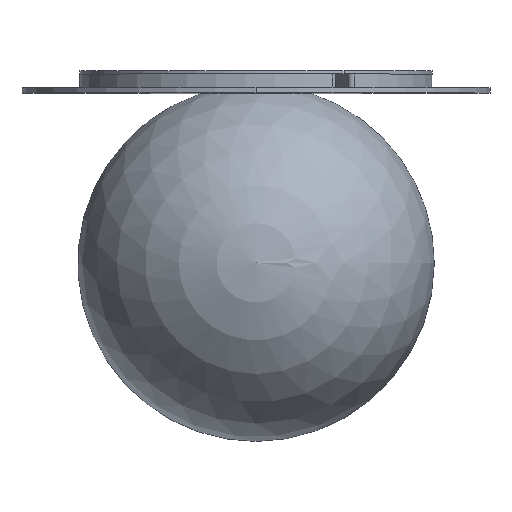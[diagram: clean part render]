
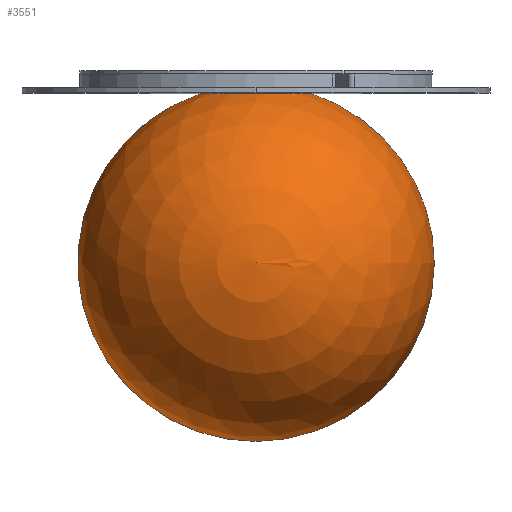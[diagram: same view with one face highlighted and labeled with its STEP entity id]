
A CAD part, top view. The second image highlights one B-rep face of the part: STEP entity #3551.
In plain terms, the highlighted spherical face has radius 80 mm.
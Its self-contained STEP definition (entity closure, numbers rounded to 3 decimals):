
#9 = VERTEX_POINT ( 'NONE', #609 ) ;
#15 = EDGE_CURVE ( 'NONE', #3541, #1083, #3425, .T. ) ;
#156 = CARTESIAN_POINT ( 'NONE',  ( 0., 0., 0. ) ) ;
#225 = CARTESIAN_POINT ( 'NONE',  ( -25., 75.993, 0. ) ) ;
#246 = CIRCLE ( 'NONE', #2423, 80. ) ;
#609 = CARTESIAN_POINT ( 'NONE',  ( 25., 75.993, 0. ) ) ;
#640 = DIRECTION ( 'NONE',  ( -1., 0., 0. ) ) ;
#839 = ORIENTED_EDGE ( 'NONE', *, *, #2503, .T. ) ;
#893 = CARTESIAN_POINT ( 'NONE',  ( 0., 75.993, 0. ) ) ;
#1083 = VERTEX_POINT ( 'NONE', #225 ) ;
#1126 = CARTESIAN_POINT ( 'NONE',  ( 0., -80., 0. ) ) ;
#1193 = ORIENTED_EDGE ( 'NONE', *, *, #15, .F. ) ;
#1226 = DIRECTION ( 'NONE',  ( 0., 1., 0. ) ) ;
#1246 = DIRECTION ( 'NONE',  ( -1., 0., 0. ) ) ;
#1248 = AXIS2_PLACEMENT_3D ( 'NONE', #156, #2690, #2070 ) ;
#1265 = CARTESIAN_POINT ( 'NONE',  ( 0., 0., 0. ) ) ;
#1443 = CIRCLE ( 'NONE', #3020, 25. ) ;
#1838 = DIRECTION ( 'NONE',  ( 1., 0., 0. ) ) ;
#2001 = FACE_OUTER_BOUND ( 'NONE', #2405, .T. ) ;
#2070 = DIRECTION ( 'NONE',  ( 1., 0., 0. ) ) ;
#2405 = EDGE_LOOP ( 'NONE', ( #1193, #839, #2590 ) ) ;
#2423 = AXIS2_PLACEMENT_3D ( 'NONE', #1265, #2499, #1838 ) ;
#2499 = DIRECTION ( 'NONE',  ( 0., 0., 1. ) ) ;
#2503 = EDGE_CURVE ( 'NONE', #3541, #9, #246, .T. ) ;
#2590 = ORIENTED_EDGE ( 'NONE', *, *, #3149, .F. ) ;
#2690 = DIRECTION ( 'NONE',  ( 0., 0., -1. ) ) ;
#2803 = DIRECTION ( 'NONE',  ( 0., 0., -1. ) ) ;
#2954 = SPHERICAL_SURFACE ( 'NONE', #1248, 80. ) ;
#3020 = AXIS2_PLACEMENT_3D ( 'NONE', #893, #1226, #1246 ) ;
#3149 = EDGE_CURVE ( 'NONE', #1083, #9, #1443, .T. ) ;
#3425 = CIRCLE ( 'NONE', #3941, 80. ) ;
#3541 = VERTEX_POINT ( 'NONE', #1126 ) ;
#3551 = ADVANCED_FACE ( 'NONE', ( #2001 ), #2954, .T. ) ;
#3758 = CARTESIAN_POINT ( 'NONE',  ( 0., 0., 0. ) ) ;
#3941 = AXIS2_PLACEMENT_3D ( 'NONE', #3758, #2803, #640 ) ;
